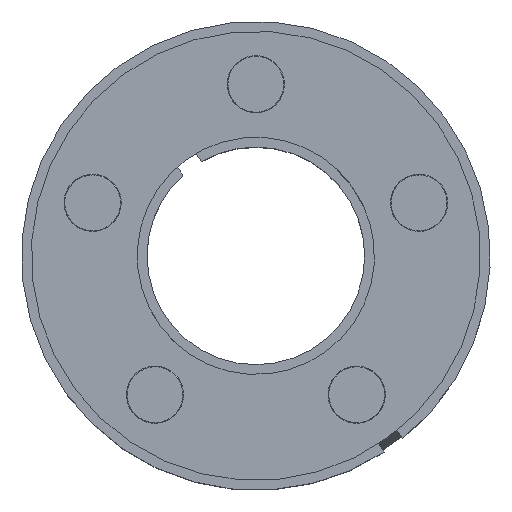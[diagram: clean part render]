
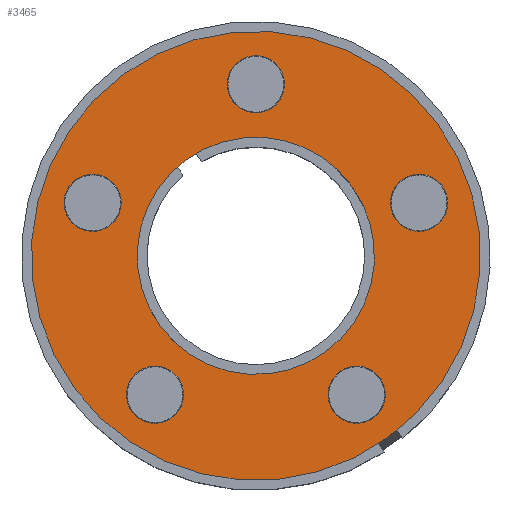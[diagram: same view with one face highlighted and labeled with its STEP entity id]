
A CAD part, top view. The second image highlights one B-rep face of the part: STEP entity #3465.
In plain terms, the highlighted planar face has unit normal (0, 0, 1).
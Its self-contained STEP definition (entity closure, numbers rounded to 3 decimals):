
#29 = DIRECTION ( 'NONE',  ( 0.809, 0.588, 0. ) ) ;
#30 = DIRECTION ( 'NONE',  ( 0.809, 0.588, 0. ) ) ;
#267 = AXIS2_PLACEMENT_3D ( 'NONE', #7817, #3893, #29 ) ;
#338 = CIRCLE ( 'NONE', #7161, 10.368 ) ;
#401 = EDGE_LOOP ( 'NONE', ( #7278, #5732 ) ) ;
#460 = CIRCLE ( 'NONE', #8125, 2.5 ) ;
#471 = CIRCLE ( 'NONE', #2014, 19.63 ) ;
#513 = CARTESIAN_POINT ( 'NONE',  ( -14.266, 4.635, 18.013 ) ) ;
#643 = VERTEX_POINT ( 'NONE', #1002 ) ;
#735 = DIRECTION ( 'NONE',  ( 0., 0., -1. ) ) ;
#751 = FACE_BOUND ( 'NONE', #3033, .T. ) ;
#753 = AXIS2_PLACEMENT_3D ( 'NONE', #3370, #7940, #4030 ) ;
#834 = ORIENTED_EDGE ( 'NONE', *, *, #3897, .T. ) ;
#864 = CIRCLE ( 'NONE', #8301, 19.63 ) ;
#913 = VERTEX_POINT ( 'NONE', #2517 ) ;
#938 = AXIS2_PLACEMENT_3D ( 'NONE', #2088, #6662, #2734 ) ;
#947 = FACE_BOUND ( 'NONE', #6864, .T. ) ;
#1002 = CARTESIAN_POINT ( 'NONE',  ( 15.881, 11.538, 18.013 ) ) ;
#1040 = CARTESIAN_POINT ( 'NONE',  ( -10.839, -13.605, 18.013 ) ) ;
#1051 = DIRECTION ( 'NONE',  ( 0., 0., -1. ) ) ;
#1134 = VERTEX_POINT ( 'NONE', #8067 ) ;
#1165 = DIRECTION ( 'NONE',  ( 0.809, 0.588, 0. ) ) ;
#1367 = VERTEX_POINT ( 'NONE', #7711 ) ;
#1474 = CARTESIAN_POINT ( 'NONE',  ( -14.266, 4.635, 18.013 ) ) ;
#1771 = EDGE_CURVE ( 'NONE', #7262, #2736, #460, .T. ) ;
#1787 = EDGE_CURVE ( 'NONE', #8377, #4931, #3899, .T. ) ;
#1950 = VERTEX_POINT ( 'NONE', #2609 ) ;
#2014 = AXIS2_PLACEMENT_3D ( 'NONE', #6047, #2110, #6695 ) ;
#2088 = CARTESIAN_POINT ( 'NONE',  ( 14.266, 4.635, 18.013 ) ) ;
#2110 = DIRECTION ( 'NONE',  ( 0., 0., -1. ) ) ;
#2123 = DIRECTION ( 'NONE',  ( 0.809, 0.588, 0. ) ) ;
#2133 = PLANE ( 'NONE',  #4249 ) ;
#2165 = CARTESIAN_POINT ( 'NONE',  ( 0., 0., 18.013 ) ) ;
#2232 = ORIENTED_EDGE ( 'NONE', *, *, #7631, .T. ) ;
#2362 = CARTESIAN_POINT ( 'NONE',  ( -8.817, -12.135, 18.013 ) ) ;
#2476 = FACE_BOUND ( 'NONE', #4289, .T. ) ;
#2517 = CARTESIAN_POINT ( 'NONE',  ( -16.288, 3.166, 18.013 ) ) ;
#2545 = EDGE_CURVE ( 'NONE', #7346, #643, #864, .T. ) ;
#2609 = CARTESIAN_POINT ( 'NONE',  ( 8.388, 6.094, 18.013 ) ) ;
#2627 = CIRCLE ( 'NONE', #938, 2.5 ) ;
#2691 = DIRECTION ( 'NONE',  ( 0., 0., -1. ) ) ;
#2708 = EDGE_CURVE ( 'NONE', #643, #7346, #471, .T. ) ;
#2719 = CARTESIAN_POINT ( 'NONE',  ( -8.817, -12.135, 18.013 ) ) ;
#2734 = DIRECTION ( 'NONE',  ( 0.809, 0.588, 0. ) ) ;
#2736 = VERTEX_POINT ( 'NONE', #5374 ) ;
#2809 = DIRECTION ( 'NONE',  ( 0.809, 0.588, 0. ) ) ;
#2919 = CARTESIAN_POINT ( 'NONE',  ( 10.839, -10.666, 18.013 ) ) ;
#3013 = CARTESIAN_POINT ( 'NONE',  ( 2.023, 16.469, 18.013 ) ) ;
#3017 = DIRECTION ( 'NONE',  ( 0.809, 0.588, 0. ) ) ;
#3033 = EDGE_LOOP ( 'NONE', ( #4286, #7328 ) ) ;
#3044 = DIRECTION ( 'NONE',  ( 0., 0., -1. ) ) ;
#3062 = AXIS2_PLACEMENT_3D ( 'NONE', #6613, #2691, #7259 ) ;
#3209 = CIRCLE ( 'NONE', #267, 2.5 ) ;
#3286 = CIRCLE ( 'NONE', #5442, 2.5 ) ;
#3370 = CARTESIAN_POINT ( 'NONE',  ( 8.817, -12.135, 18.013 ) ) ;
#3378 = DIRECTION ( 'NONE',  ( 0.809, 0.588, 0. ) ) ;
#3393 = ORIENTED_EDGE ( 'NONE', *, *, #6260, .T. ) ;
#3411 = CARTESIAN_POINT ( 'NONE',  ( 0., 15., 18.013 ) ) ;
#3465 = ADVANCED_FACE ( 'NONE', ( #947, #2476, #7485, #5759, #4202, #751, #3995 ), #2133, .F. ) ;
#3665 = EDGE_CURVE ( 'NONE', #1367, #1950, #338, .T. ) ;
#3781 = EDGE_CURVE ( 'NONE', #1950, #1367, #3860, .T. ) ;
#3860 = CIRCLE ( 'NONE', #4645, 10.368 ) ;
#3893 = DIRECTION ( 'NONE',  ( 0., 0., -1. ) ) ;
#3894 = DIRECTION ( 'NONE',  ( 0., 0., -1. ) ) ;
#3897 = EDGE_CURVE ( 'NONE', #1134, #7354, #4478, .T. ) ;
#3899 = CIRCLE ( 'NONE', #7707, 2.5 ) ;
#3928 = CARTESIAN_POINT ( 'NONE',  ( -12.243, 6.105, 18.013 ) ) ;
#3995 = FACE_OUTER_BOUND ( 'NONE', #6628, .T. ) ;
#4030 = DIRECTION ( 'NONE',  ( 0.809, 0.588, 0. ) ) ;
#4056 = VERTEX_POINT ( 'NONE', #8031 ) ;
#4062 = DIRECTION ( 'NONE',  ( 0.809, 0.588, 0. ) ) ;
#4202 = FACE_BOUND ( 'NONE', #7435, .T. ) ;
#4249 = AXIS2_PLACEMENT_3D ( 'NONE', #2165, #6745, #2809 ) ;
#4286 = ORIENTED_EDGE ( 'NONE', *, *, #3781, .T. ) ;
#4289 = EDGE_LOOP ( 'NONE', ( #6639, #834 ) ) ;
#4331 = EDGE_CURVE ( 'NONE', #6068, #4056, #2627, .T. ) ;
#4478 = CIRCLE ( 'NONE', #6677, 2.5 ) ;
#4556 = ORIENTED_EDGE ( 'NONE', *, *, #1771, .T. ) ;
#4623 = CARTESIAN_POINT ( 'NONE',  ( 0., 0., 18.013 ) ) ;
#4645 = AXIS2_PLACEMENT_3D ( 'NONE', #7819, #3894, #30 ) ;
#4813 = CIRCLE ( 'NONE', #753, 2.5 ) ;
#4915 = ORIENTED_EDGE ( 'NONE', *, *, #2545, .F. ) ;
#4931 = VERTEX_POINT ( 'NONE', #7303 ) ;
#4963 = CARTESIAN_POINT ( 'NONE',  ( 8.817, -12.135, 18.013 ) ) ;
#5078 = DIRECTION ( 'NONE',  ( 0., 0., -1. ) ) ;
#5239 = EDGE_LOOP ( 'NONE', ( #6263, #7417 ) ) ;
#5293 = DIRECTION ( 'NONE',  ( 0.809, 0.588, 0. ) ) ;
#5334 = ORIENTED_EDGE ( 'NONE', *, *, #4331, .T. ) ;
#5374 = CARTESIAN_POINT ( 'NONE',  ( 6.794, -13.605, 18.013 ) ) ;
#5442 = AXIS2_PLACEMENT_3D ( 'NONE', #513, #5078, #1165 ) ;
#5473 = AXIS2_PLACEMENT_3D ( 'NONE', #1474, #6067, #2123 ) ;
#5488 = EDGE_CURVE ( 'NONE', #7354, #1134, #3209, .T. ) ;
#5617 = DIRECTION ( 'NONE',  ( 0.809, 0.588, 0. ) ) ;
#5732 = ORIENTED_EDGE ( 'NONE', *, *, #5904, .T. ) ;
#5759 = FACE_BOUND ( 'NONE', #5239, .T. ) ;
#5904 = EDGE_CURVE ( 'NONE', #913, #6737, #3286, .T. ) ;
#6047 = CARTESIAN_POINT ( 'NONE',  ( 0., 0., 18.013 ) ) ;
#6067 = DIRECTION ( 'NONE',  ( 0., 0., -1. ) ) ;
#6068 = VERTEX_POINT ( 'NONE', #6423 ) ;
#6098 = CIRCLE ( 'NONE', #6366, 2.5 ) ;
#6260 = EDGE_CURVE ( 'NONE', #2736, #7262, #4813, .T. ) ;
#6263 = ORIENTED_EDGE ( 'NONE', *, *, #8216, .T. ) ;
#6366 = AXIS2_PLACEMENT_3D ( 'NONE', #2719, #7293, #3378 ) ;
#6423 = CARTESIAN_POINT ( 'NONE',  ( 16.288, 6.105, 18.013 ) ) ;
#6613 = CARTESIAN_POINT ( 'NONE',  ( 14.266, 4.635, 18.013 ) ) ;
#6628 = EDGE_LOOP ( 'NONE', ( #7329, #4915 ) ) ;
#6639 = ORIENTED_EDGE ( 'NONE', *, *, #5488, .T. ) ;
#6662 = DIRECTION ( 'NONE',  ( 0., 0., -1. ) ) ;
#6677 = AXIS2_PLACEMENT_3D ( 'NONE', #3411, #7978, #4062 ) ;
#6695 = DIRECTION ( 'NONE',  ( 0.809, 0.588, 0. ) ) ;
#6737 = VERTEX_POINT ( 'NONE', #3928 ) ;
#6745 = DIRECTION ( 'NONE',  ( 0., 0., -1. ) ) ;
#6864 = EDGE_LOOP ( 'NONE', ( #5334, #2232 ) ) ;
#6932 = DIRECTION ( 'NONE',  ( 0., 0., -1. ) ) ;
#6968 = CARTESIAN_POINT ( 'NONE',  ( 0., 0., 18.013 ) ) ;
#7084 = EDGE_CURVE ( 'NONE', #6737, #913, #8355, .T. ) ;
#7161 = AXIS2_PLACEMENT_3D ( 'NONE', #6968, #3044, #7629 ) ;
#7259 = DIRECTION ( 'NONE',  ( 0.809, 0.588, 0. ) ) ;
#7262 = VERTEX_POINT ( 'NONE', #2919 ) ;
#7278 = ORIENTED_EDGE ( 'NONE', *, *, #7084, .T. ) ;
#7293 = DIRECTION ( 'NONE',  ( 0., 0., -1. ) ) ;
#7303 = CARTESIAN_POINT ( 'NONE',  ( -6.794, -10.666, 18.013 ) ) ;
#7328 = ORIENTED_EDGE ( 'NONE', *, *, #3665, .T. ) ;
#7329 = ORIENTED_EDGE ( 'NONE', *, *, #2708, .F. ) ;
#7346 = VERTEX_POINT ( 'NONE', #7589 ) ;
#7354 = VERTEX_POINT ( 'NONE', #3013 ) ;
#7417 = ORIENTED_EDGE ( 'NONE', *, *, #1787, .T. ) ;
#7435 = EDGE_LOOP ( 'NONE', ( #4556, #3393 ) ) ;
#7485 = FACE_BOUND ( 'NONE', #401, .T. ) ;
#7589 = CARTESIAN_POINT ( 'NONE',  ( -15.881, -11.538, 18.013 ) ) ;
#7629 = DIRECTION ( 'NONE',  ( 0.809, 0.588, 0. ) ) ;
#7631 = EDGE_CURVE ( 'NONE', #4056, #6068, #7836, .T. ) ;
#7707 = AXIS2_PLACEMENT_3D ( 'NONE', #2362, #6932, #3017 ) ;
#7711 = CARTESIAN_POINT ( 'NONE',  ( -8.388, -6.094, 18.013 ) ) ;
#7817 = CARTESIAN_POINT ( 'NONE',  ( 0., 15., 18.013 ) ) ;
#7819 = CARTESIAN_POINT ( 'NONE',  ( 0., 0., 18.013 ) ) ;
#7836 = CIRCLE ( 'NONE', #3062, 2.5 ) ;
#7940 = DIRECTION ( 'NONE',  ( 0., 0., -1. ) ) ;
#7978 = DIRECTION ( 'NONE',  ( 0., 0., -1. ) ) ;
#8031 = CARTESIAN_POINT ( 'NONE',  ( 12.243, 3.166, 18.013 ) ) ;
#8067 = CARTESIAN_POINT ( 'NONE',  ( -2.023, 13.531, 18.013 ) ) ;
#8125 = AXIS2_PLACEMENT_3D ( 'NONE', #4963, #1051, #5617 ) ;
#8216 = EDGE_CURVE ( 'NONE', #4931, #8377, #6098, .T. ) ;
#8301 = AXIS2_PLACEMENT_3D ( 'NONE', #4623, #735, #5293 ) ;
#8355 = CIRCLE ( 'NONE', #5473, 2.5 ) ;
#8377 = VERTEX_POINT ( 'NONE', #1040 ) ;
